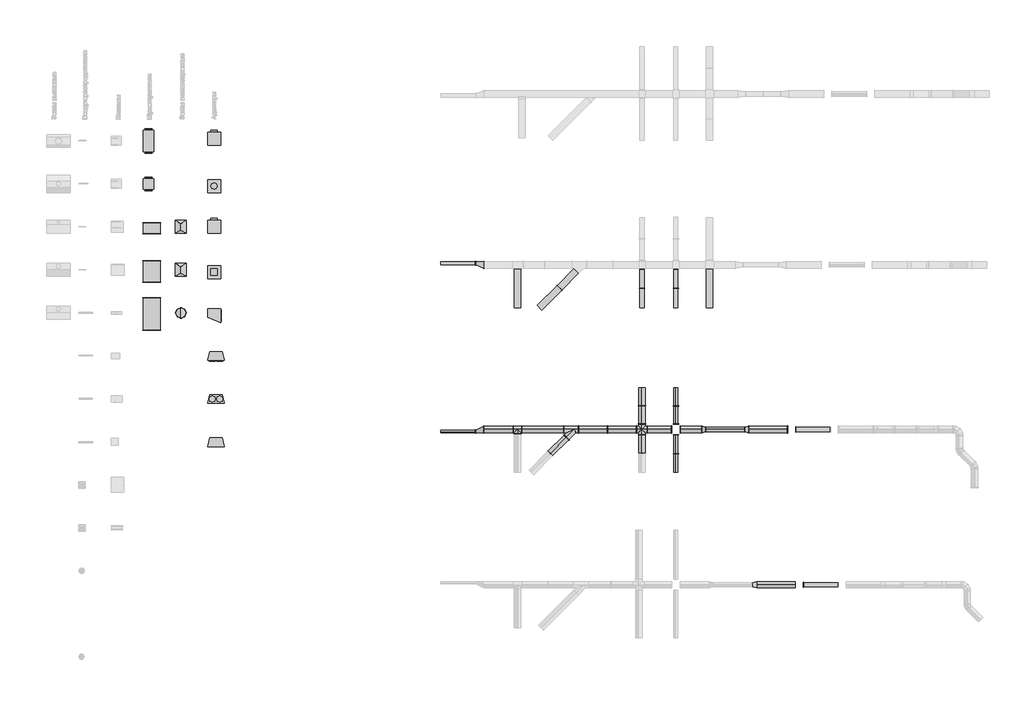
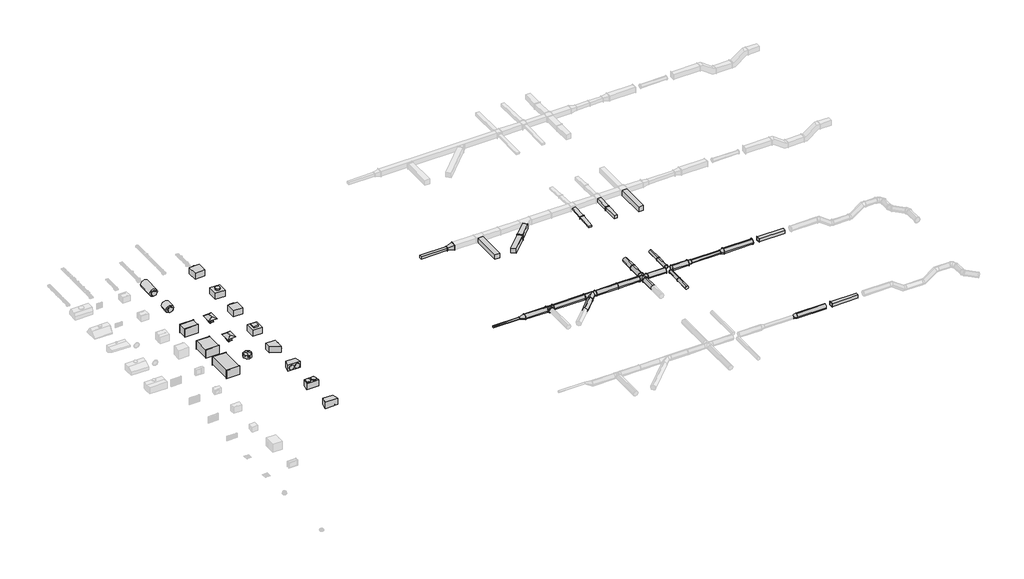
# One storey, part 3 of 8: 50 duct fittings, 29 duct segments, 5 dampers, 3 air terminals.
"""IFC4 building model written with IfcOpenShell, lengths in millimetres."""

from ifc_helpers import new_model, si_unit, point, frame, frame_2d, origin, place, context, project, spatial, polyline, circle_curve, trimmed, segment, composite_curve, outline, extrude, transform, mapped, element, save
from components import air_terminal_fc5799da, air_terminal_59899d2f, damper_f27f8fda, damper_9d352e0b, damper_7de5ede2, damper_b7a45a8b, damper_de34a188, duct_fitting_7b51e7bf, duct_fitting_5f2c6051, duct_fitting_603af2c4, duct_fitting_812cb25e, duct_fitting_a832e96c, duct_fitting_3d329366, duct_fitting_25271141, duct_fitting_49a873c3, duct_fitting_0a7cc2d9, duct_fitting_c498028a, duct_fitting_f7d28258, duct_fitting_ef46aa1c, duct_fitting_3f762420, duct_fitting_c73acc6d, duct_fitting_a26a523e, duct_fitting_8ec2bed2, duct_fitting_57fa9806, duct_fitting_327ef4ee, duct_fitting_1ddd712a, duct_fitting_735e9664, duct_fitting_d655b9da, duct_fitting_24f2fb5e, duct_fitting_0375d318, duct_fitting_0a8e2603, duct_fitting_de9f43f0, duct_fitting_114b5d4b, duct_fitting_bf4066f4

model = new_model("IFC4")

# Units and contexts
model_context = context("Model", 3, world=origin())
ifc_project = project(units=[si_unit("LENGTHUNIT", "METRE", prefix="MILLI")], contexts=[model_context])

# Site, building, storey
site = spatial("IfcSite", under=ifc_project)
building = spatial("IfcBuilding", under=site)
storey = spatial("IfcBuildingStorey", under=building, Name="Уровень 1", Elevation=0.0)

# Air terminals
placement = place(None, origin())
air_terminal_shape = air_terminal_fc5799da(model_context)
element("IfcAirTerminal", 1, ObjectType="BL_Дефлектор : BL_Дефлектор", at=placement, inside=storey, context=model_context, shape_type="MappedRepresentation", body=[
    mapped(air_terminal_shape, transform((-62129.1651759, 22332.2225324, 0.0), x_axis=(0.0, -1.0000000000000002, 0.0), y_axis=(1.0000000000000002, 0.0, 0.0), z_axis=(0.0, 0.0, 1.0))),
])
air_terminal_2_shape = air_terminal_59899d2f(model_context)
element("IfcAirTerminal", 2, ObjectType="BL_ЗонтПрямоугольный_Выброс : BL_ЗонтПрямоугольный_Выброс", at=placement, inside=storey, context=model_context, shape_type="MappedRepresentation", body=[
    mapped(air_terminal_2_shape, transform((-62128.1651759, 26332.2225324, 0.0), x_axis=(0.0, -1.0000000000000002, 0.0), y_axis=(1.0000000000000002, 0.0, 0.0), z_axis=(0.0, 0.0, 1.0))),
])
element("IfcAirTerminal", 3, ObjectType="BL_ЗонтПрямоугольный_Воздухозабор : BL_ЗонтПрямоугольный_Воздухозабор", at=placement, inside=storey, context=model_context, shape_type="MappedRepresentation", body=[
    mapped(air_terminal_2_shape, transform((-62128.1651759, 24332.2225324, 0.0), x_axis=(0.0, -1.0000000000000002, 0.0), y_axis=(1.0000000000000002, 0.0, 0.0), z_axis=(0.0, 0.0, 1.0))),
])

# Dampers
damper_shape = damper_f27f8fda(model_context)
element("IfcDamper", 4, ObjectType="Шумоглушитель_Круглый_ГТК : ГТК 1 (L=980)", at=placement, inside=storey, context=model_context, shape_type="MappedRepresentation", body=[
    mapped(damper_shape, transform((-63628.1651759, 30332.2225324, 250.0), x_axis=(0.0, -1.0000000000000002, 0.0), y_axis=(1.0000000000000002, 0.0, 0.0), z_axis=(0.0, 0.0, 1.0))),
])
damper_2_shape = damper_9d352e0b(model_context)
element("IfcDamper", 5, ObjectType="Шумоглушитель_Круглый_ГТК : ГТК 2 (L=480)", at=placement, inside=storey, context=model_context, shape_type="MappedRepresentation", body=[
    mapped(damper_2_shape, transform((-63628.1651759, 28332.2225324, 250.0), x_axis=(0.0, -1.0000000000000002, 0.0), y_axis=(1.0000000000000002, 0.0, 0.0), z_axis=(0.0, 0.0, 1.0))),
])
damper_3_shape = damper_7de5ede2(model_context)
element("IfcDamper", 6, ObjectType="Шумоглушитель_Прямоугольный_ГП : ГП (L=1000)", at=placement, inside=storey, context=model_context, shape_type="MappedRepresentation", body=[
    mapped(damper_3_shape, transform((-63478.1651759, 24263.0798558, 0.0), x_axis=(0.0, -1.0000000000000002, 0.0), y_axis=(1.0000000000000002, 0.0, 0.0), z_axis=(0.0, 0.0, 1.0))),
])
damper_4_shape = damper_b7a45a8b(model_context)
element("IfcDamper", 7, ObjectType="Шумоглушитель_Прямоугольный_ГП : ГП (L=1500)", at=placement, inside=storey, context=model_context, shape_type="MappedRepresentation", body=[
    mapped(damper_4_shape, transform((-63478.1651759, 22282.7114501, 0.0), x_axis=(0.0, -1.0000000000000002, 0.0), y_axis=(1.0000000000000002, 0.0, 0.0), z_axis=(0.0, 0.0, 1.0))),
])
damper_5_shape = damper_de34a188(model_context)
element("IfcDamper", 8, ObjectType="Шумоглушитель_Прямоугольный_ГП : ГП (L=500)", at=placement, inside=storey, context=model_context, shape_type="MappedRepresentation", body=[
    mapped(damper_5_shape, transform((-63478.1651759, 26272.3939084, 0.0), x_axis=(0.0, -1.0000000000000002, 0.0), y_axis=(1.0000000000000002, 0.0, 0.0), z_axis=(0.0, 0.0, 1.0))),
])

# Duct fittings
duct_fitting_shape = duct_fitting_7b51e7bf(model_context)
element("IfcDuctFitting", 9, ObjectType="BL_Адаптер-НТ_БоковоеПрисоединение : BL_Адаптер-НТ_БоковоеПрисоединение", at=placement, inside=storey, context=model_context, shape_type="MappedRepresentation", body=[
    mapped(duct_fitting_shape, transform((-60578.1651759, 22532.2225324, 200.0), x_axis=(0.0, -1.0000000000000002, 0.0), y_axis=(1.0000000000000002, 0.0, 0.0), z_axis=(0.0, 0.0, 1.0))),
])
duct_fitting_2_shape = duct_fitting_5f2c6051(model_context)
element("IfcDuctFitting", 10, ObjectType="BL_Адаптер-СТ_ПР : BL_Адаптер-СТ_ПР", at=placement, inside=storey, context=model_context, shape_type="MappedRepresentation", body=[
    mapped(duct_fitting_2_shape, transform((-60578.1651759, 24532.2225324, 200.0), x_axis=(0.0, -1.0000000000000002, 0.0), y_axis=(1.0000000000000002, 0.0, 0.0), z_axis=(0.0, 0.0, 1.0))),
])
duct_fitting_3_shape = duct_fitting_603af2c4(model_context)
element("IfcDuctFitting", 11, ObjectType="BL_Адаптер-СТ_ПР : BL_Адаптер-СТ_ПР", at=placement, inside=storey, context=model_context, shape_type="MappedRepresentation", body=[
    mapped(duct_fitting_3_shape, transform((-60578.1651759, 26032.2225324, 200.0), x_axis=(0.0, 1.0000000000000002, 0.0), y_axis=(-1.0000000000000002, 0.0, 0.0), z_axis=(0.0, 0.0, 1.0))),
])
duct_fitting_4_shape = duct_fitting_812cb25e(model_context)
element("IfcDuctFitting", 12, ObjectType="BL_Адаптер-СТ_КР : BL_Адаптер-СТ_КР", at=placement, inside=storey, context=model_context, shape_type="MappedRepresentation", body=[
    mapped(duct_fitting_4_shape, transform((-60578.1651759, 30132.2225324, 200.0), x_axis=(0.0, 1.0000000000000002, 0.0), y_axis=(-1.0000000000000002, 0.0, 0.0), z_axis=(0.0, 0.0, 1.0))),
])
duct_fitting_5_shape = duct_fitting_a832e96c(model_context)
element("IfcDuctFitting", 13, ObjectType="BL_Адаптер-СТ_КР : BL_Адаптер-СТ_КР", at=placement, inside=storey, context=model_context, shape_type="MappedRepresentation", body=[
    mapped(duct_fitting_5_shape, transform((-60578.1651759, 28532.2225324, 200.0), x_axis=(0.0, -1.0000000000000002, 0.0), y_axis=(1.0000000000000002, 0.0, 0.0), z_axis=(0.0, 0.0, 1.0))),
])
duct_fitting_6_shape = duct_fitting_3d329366(model_context)
element("IfcDuctFitting", 14, ObjectType="BL_ПереходникВоздуховодов_Прямоугольный : BL_ПереходникВоздуховодов_Прямоугольный", at=placement, inside=storey, context=model_context, shape_type="MappedRepresentation", body=[
    mapped(duct_fitting_6_shape, transform((-48040.6087126, 24570.0855378, 1050.0), x_axis=(-1.0, 0.0, 0.0), y_axis=(0.0, -1.0, 0.0), z_axis=(0.0, 0.0, 1.0))),
])
duct_fitting_7_shape = duct_fitting_25271141(model_context)
element("IfcDuctFitting", 15, ObjectType="BL_ФланецВоздуховдов-Двойной_Прямоугольный : BL_ФланецВоздуховдов-Двойной_Прямоугольный", at=placement, inside=storey, context=model_context, shape_type="MappedRepresentation", body=[
    mapped(duct_fitting_7_shape, transform((-44546.051706, 23530.6692607, 1050.0), x_axis=(0.7071067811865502, 0.7071067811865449, 0.0), y_axis=(-0.7071067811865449, 0.7071067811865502, 0.0), z_axis=(0.0, 0.0, 1.0))),
])
duct_fitting_8_shape = duct_fitting_49a873c3(model_context)
element("IfcDuctFitting", 16, ObjectType="BL_ФланецВоздуховдов-Двойной_Прямоугольный : BL_ФланецВоздуховдов-Двойной_Прямоугольный", at=placement, inside=storey, context=model_context, shape_type="MappedRepresentation", body=[
    mapped(duct_fitting_8_shape, transform((-39139.7447871, 23475.3002828, 1075.144854), x_axis=(0.0, 0.9996144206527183, 0.027767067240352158), y_axis=(-1.0, 0.0, 0.0), z_axis=(0.0, -0.027767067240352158, 0.9996144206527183))),
])
duct_fitting_9_shape = duct_fitting_0a7cc2d9(model_context)
element("IfcDuctFitting", 17, ObjectType="BL_ФланецВоздуховдов-Двойной_Прямоугольный : BL_ФланецВоздуховдов-Двойной_Прямоугольный", at=placement, inside=storey, context=model_context, shape_type="MappedRepresentation", body=[
    mapped(duct_fitting_9_shape, transform((-40719.7447871, 23477.5420295, 1030.4142495), x_axis=(0.0, 0.9984603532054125, 0.05547001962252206), y_axis=(-1.0, 0.0, 0.0), z_axis=(0.0, -0.05547001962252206, 0.9984603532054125))),
])
duct_fitting_10_shape = duct_fitting_c498028a(model_context)
element("IfcDuctFitting", 18, ObjectType="BL_ТройникВоздуховодов_Круглый-90 : Фланцевое соединение", at=placement, inside=storey, context=model_context, shape_type="MappedRepresentation", body=[
    mapped(duct_fitting_10_shape, transform((-46460.2026389, 16911.2474283, 1050.0), x_axis=(1.0, 0.0, 0.0), y_axis=(0.0, 1.0, 0.0), z_axis=(0.0, 0.0, 1.0))),
])
duct_fitting_11_shape = duct_fitting_f7d28258(model_context)
element("IfcDuctFitting", 19, ObjectType="BL_ТройникВоздуховодов_Круглый-45 : Фланцевое соединение", at=placement, inside=storey, context=model_context, shape_type="MappedRepresentation", body=[
    mapped(duct_fitting_11_shape, transform((-43967.3243546, 16911.2474283, 1050.0), x_axis=(-1.0, 0.0, 0.0), y_axis=(0.0, -1.0, 0.0), z_axis=(0.0, 0.0, 1.0))),
])
duct_fitting_12_shape = duct_fitting_ef46aa1c(model_context)
element("IfcDuctFitting", 20, ObjectType="BL_ФланецВоздуховдов-Двойной_Круглый : BL_ФланецВоздуховдов-Двойной_Круглый", at=placement, inside=storey, context=model_context, shape_type="MappedRepresentation", body=[
    mapped(duct_fitting_12_shape, transform((-42271.4512474, 16865.5732053, 1050.0), x_axis=(-1.0, 0.0, 0.0), y_axis=(0.0, -1.0, 0.0), z_axis=(0.0, 0.0, 1.0))),
])
element("IfcDuctFitting", 21, ObjectType="BL_ФланецВоздуховдов-Двойной_Круглый : BL_ФланецВоздуховдов-Двойной_Круглый", at=placement, inside=storey, context=model_context, shape_type="MappedRepresentation", body=[
    mapped(duct_fitting_12_shape, transform((-40719.7447871, 18002.4373404, 1050.0), x_axis=(0.0, 1.0, 0.0), y_axis=(-1.0, 0.0, 0.0), z_axis=(0.0, 0.0, 1.0))),
])
duct_fitting_13_shape = duct_fitting_3f762420(model_context)
element("IfcDuctFitting", 22, ObjectType="BL_ФланецВоздуховдов-Двойной_Круглый : BL_ФланецВоздуховдов-Двойной_Круглый", at=placement, inside=storey, context=model_context, shape_type="MappedRepresentation", body=[
    mapped(duct_fitting_13_shape, transform((-39139.7447871, 18001.4373404, 1050.0), x_axis=(0.0, 1.0, 0.0), y_axis=(-1.0, 0.0, 0.0), z_axis=(0.0, 0.0, 1.0))),
])
element("IfcDuctFitting", 23, ObjectType="BL_ФланецВоздуховдов-Двойной_Круглый : BL_ФланецВоздуховдов-Двойной_Круглый", at=placement, inside=storey, context=model_context, shape_type="MappedRepresentation", body=[
    mapped(duct_fitting_13_shape, transform((-39139.7447871, 15785.2474283, 1050.0), x_axis=(0.0, 1.0, 0.0), y_axis=(-1.0, 0.0, 0.0), z_axis=(0.0, 0.0, 1.0))),
])
duct_fitting_14_shape = duct_fitting_c73acc6d(model_context)
element("IfcDuctFitting", 24, ObjectType="BL_КрестовинаВоздуховодов_Круглая : Фланцевое соединение", at=placement, inside=storey, context=model_context, shape_type="MappedRepresentation", body=[
    mapped(duct_fitting_14_shape, transform((-40674.0705642, 16911.2474283, 1050.0), x_axis=(0.0, 1.0, 0.0), y_axis=(-1.0, 0.0, 0.0), z_axis=(0.0, 0.0, 1.0))),
])
duct_fitting_15_shape = duct_fitting_a26a523e(model_context)
element("IfcDuctFitting", 25, ObjectType="BL_ФланецВоздуховдов-Двойной_Круглый_БезКоннекторов : BL_ФланецВоздуховдов-Двойной_Круглый_БезКоннекторов", at=placement, inside=storey, context=model_context, shape_type="MappedRepresentation", body=[
    mapped(duct_fitting_15_shape, transform((-39139.7447871, 16661.2474283, 1050.0), x_axis=(0.0, 1.0, 0.0), y_axis=(-1.0, 0.0, 0.0), z_axis=(0.0, 0.0, 1.0))),
])
element("IfcDuctFitting", 26, ObjectType="BL_ФланецВоздуховдов-Двойной_Круглый_БезКоннекторов : BL_ФланецВоздуховдов-Двойной_Круглый_БезКоннекторов", at=placement, inside=storey, context=model_context, shape_type="MappedRepresentation", body=[
    mapped(duct_fitting_15_shape, transform((-39139.7447871, 17161.2474283, 1050.0), x_axis=(0.0, 1.0, 0.0), y_axis=(-1.0, 0.0, 0.0), z_axis=(0.0, 0.0, 1.0))),
])
duct_fitting_16_shape = duct_fitting_8ec2bed2(model_context)
element("IfcDuctFitting", 27, ObjectType="BL_ФланецВоздуховдов-Двойной_Круглый_БезКоннекторов : BL_ФланецВоздуховдов-Двойной_Круглый_БезКоннекторов", at=placement, inside=storey, context=model_context, shape_type="MappedRepresentation", body=[
    mapped(duct_fitting_16_shape, transform((-46260.2026389, 16956.9216512, 1050.0), x_axis=(1.0, 0.0, 0.0), y_axis=(0.0, 1.0, 0.0), z_axis=(0.0, 0.0, 1.0))),
])
element("IfcDuctFitting", 28, ObjectType="BL_ФланецВоздуховдов-Двойной_Круглый_БезКоннекторов : BL_ФланецВоздуховдов-Двойной_Круглый_БезКоннекторов", at=placement, inside=storey, context=model_context, shape_type="MappedRepresentation", body=[
    mapped(duct_fitting_16_shape, transform((-46660.2026389, 16956.9216512, 1050.0), x_axis=(1.0, 0.0, 0.0), y_axis=(0.0, 1.0, 0.0), z_axis=(0.0, 0.0, 1.0))),
])
element("IfcDuctFitting", 29, ObjectType="BL_ФланецВоздуховдов-Двойной_Круглый_БезКоннекторов : BL_ФланецВоздуховдов-Двойной_Круглый_БезКоннекторов", at=placement, inside=storey, context=model_context, shape_type="MappedRepresentation", body=[
    mapped(duct_fitting_16_shape, transform((-46505.8768619, 16711.2474283, 1050.0), x_axis=(0.0, 1.0, 0.0), y_axis=(-1.0, 0.0, 0.0), z_axis=(0.0, 0.0, 1.0))),
])
element("IfcDuctFitting", 30, ObjectType="BL_ФланецВоздуховдов-Двойной_Круглый_БезКоннекторов : BL_ФланецВоздуховдов-Двойной_Круглый_БезКоннекторов", at=placement, inside=storey, context=model_context, shape_type="MappedRepresentation", body=[
    mapped(duct_fitting_16_shape, transform((-33894.0705642, 16865.5732053, 1050.0), x_axis=(-1.0, 0.0, 0.0), y_axis=(0.0, -1.0, 0.0), z_axis=(0.0, 0.0, 1.0))),
])
element("IfcDuctFitting", 31, ObjectType="BL_ФланецВоздуховдов-Двойной_Круглый_БезКоннекторов : BL_ФланецВоздуховдов-Двойной_Круглый_БезКоннекторов", at=placement, inside=storey, context=model_context, shape_type="MappedRepresentation", body=[
    mapped(duct_fitting_16_shape, transform((-40719.7447871, 17161.2474283, 1050.0), x_axis=(0.0, 1.0, 0.0), y_axis=(-1.0, 0.0, 0.0), z_axis=(0.0, 0.0, 1.0))),
])
element("IfcDuctFitting", 32, ObjectType="BL_ФланецВоздуховдов-Двойной_Круглый_БезКоннекторов : BL_ФланецВоздуховдов-Двойной_Круглый_БезКоннекторов", at=placement, inside=storey, context=model_context, shape_type="MappedRepresentation", body=[
    mapped(duct_fitting_16_shape, transform((-40719.7447871, 16661.2474283, 1050.0), x_axis=(0.0, 1.0, 0.0), y_axis=(-1.0, 0.0, 0.0), z_axis=(0.0, 0.0, 1.0))),
])
element("IfcDuctFitting", 33, ObjectType="BL_ФланецВоздуховдов-Двойной_Круглый_БезКоннекторов : BL_ФланецВоздуховдов-Двойной_Круглый_БезКоннекторов", at=placement, inside=storey, context=model_context, shape_type="MappedRepresentation", body=[
    mapped(duct_fitting_16_shape, transform((-40424.0705642, 16865.5732053, 1050.0), x_axis=(-1.0, 0.0, 0.0), y_axis=(0.0, -1.0, 0.0), z_axis=(0.0, 0.0, 1.0))),
])
element("IfcDuctFitting", 34, ObjectType="BL_ФланецВоздуховдов-Двойной_Круглый_БезКоннекторов : BL_ФланецВоздуховдов-Двойной_Круглый_БезКоннекторов", at=placement, inside=storey, context=model_context, shape_type="MappedRepresentation", body=[
    mapped(duct_fitting_16_shape, transform((-40924.0705642, 16865.5732053, 1050.0), x_axis=(-1.0, 0.0, 0.0), y_axis=(0.0, -1.0, 0.0), z_axis=(0.0, 0.0, 1.0))),
])
element("IfcDuctFitting", 35, ObjectType="BL_ФланецВоздуховдов-Двойной_Круглый_БезКоннекторов : BL_ФланецВоздуховдов-Двойной_Круглый_БезКоннекторов", at=placement, inside=storey, context=model_context, shape_type="MappedRepresentation", body=[
    mapped(duct_fitting_16_shape, transform((-38894.0705642, 16956.9216512, 1050.0), x_axis=(1.0, 0.0, 0.0), y_axis=(0.0, 1.0, 0.0), z_axis=(0.0, 0.0, 1.0))),
])
element("IfcDuctFitting", 36, ObjectType="BL_ФланецВоздуховдов-Двойной_Круглый_БезКоннекторов : BL_ФланецВоздуховдов-Двойной_Круглый_БезКоннекторов", at=placement, inside=storey, context=model_context, shape_type="MappedRepresentation", body=[
    mapped(duct_fitting_16_shape, transform((-39294.0705642, 16956.9216512, 1050.0), x_axis=(1.0, 0.0, 0.0), y_axis=(0.0, 1.0, 0.0), z_axis=(0.0, 0.0, 1.0))),
])
duct_fitting_17_shape = duct_fitting_57fa9806(model_context)
element("IfcDuctFitting", 37, ObjectType="BL_ФланецВоздуховдов-Двойной_Круглый_БезКоннекторов : BL_ФланецВоздуховдов-Двойной_Круглый_БезКоннекторов", at=placement, inside=storey, context=model_context, shape_type="MappedRepresentation", body=[
    mapped(duct_fitting_17_shape, transform((-44315.8167787, 16956.9216512, 1050.0), x_axis=(-1.0, 0.0, 0.0), y_axis=(0.0, -1.0, 0.0), z_axis=(0.0, 0.0, 1.0))),
])
element("IfcDuctFitting", 38, ObjectType="BL_ФланецВоздуховдов-Двойной_Круглый_БезКоннекторов : BL_ФланецВоздуховдов-Двойной_Круглый_БезКоннекторов", at=placement, inside=storey, context=model_context, shape_type="MappedRepresentation", body=[
    mapped(duct_fitting_17_shape, transform((-43618.8319306, 16956.9216512, 1050.0), x_axis=(-1.0, 0.0, 0.0), y_axis=(0.0, -1.0, 0.0), z_axis=(0.0, 0.0, 1.0))),
])
element("IfcDuctFitting", 39, ObjectType="BL_ФланецВоздуховдов-Двойной_Круглый_БезКоннекторов : BL_ФланецВоздуховдов-Двойной_Круглый_БезКоннекторов", at=placement, inside=storey, context=model_context, shape_type="MappedRepresentation", body=[
    mapped(duct_fitting_17_shape, transform((-44220.3315855, 16572.8333029, 1050.0), x_axis=(-0.7071067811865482, -0.7071067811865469, 0.0), y_axis=(0.7071067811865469, -0.7071067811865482, 0.0), z_axis=(0.0, 0.0, 1.0))),
])
duct_fitting_18_shape = duct_fitting_327ef4ee(model_context)
element("IfcDuctFitting", 40, ObjectType="BL_ПереходникВоздуховодов_Круглый : Фланцевое соединение", at=placement, inside=storey, context=model_context, shape_type="MappedRepresentation", body=[
    mapped(duct_fitting_18_shape, transform((-37894.0705642, 16911.2474283, 1050.0), x_axis=(1.0, 0.0, 0.0), y_axis=(0.0, 1.0, 0.0), z_axis=(0.0, 0.0, 1.0))),
])
duct_fitting_19_shape = duct_fitting_1ddd712a(model_context)
element("IfcDuctFitting", 41, ObjectType="BL_ПереходникВоздуховодов_Круглый : Фланцевое соединение", at=placement, inside=storey, context=model_context, shape_type="MappedRepresentation", body=[
    mapped(duct_fitting_19_shape, transform((-35894.0705642, 16911.2474283, 1050.0), x_axis=(1.0, 0.0, 0.0), y_axis=(0.0, 1.0, 0.0), z_axis=(0.0, 0.0, 1.0))),
])
element("IfcDuctFitting", 42, ObjectType="BL_ПереходникВоздуховодов_Круглый : Ниппельное соединение", at=placement, inside=storey, context=model_context, shape_type="MappedRepresentation", body=[
    mapped(duct_fitting_19_shape, transform((-35531.6491772, 9680.2957144, 1050.0), x_axis=(1.0, 0.0, 0.0), y_axis=(0.0, 1.0, 0.0), z_axis=(0.0, 0.0, 1.0))),
])
duct_fitting_20_shape = duct_fitting_735e9664(model_context)
element("IfcDuctFitting", 43, ObjectType="BL_ПереходникВоздуховодов_Круглый : Фланцевое соединение", at=placement, inside=storey, context=model_context, shape_type="MappedRepresentation", body=[
    mapped(duct_fitting_20_shape, transform((-48040.6087126, 16911.2474283, 1050.0), x_axis=(-1.0, 0.0, 0.0), y_axis=(0.0, -1.0, 0.0), z_axis=(0.0, 0.0, 1.0))),
])
element("IfcDuctFitting", 44, ObjectType="BL_ФланецВоздуховдов-Двойной_Круглый_БезКоннекторов : BL_ФланецВоздуховдов-Двойной_Круглый_БезКоннекторов", at=placement, inside=storey, context=model_context, shape_type="MappedRepresentation", body=[
    mapped(duct_fitting_13_shape, transform((-37694.0705642, 16956.9216512, 1050.0), x_axis=(1.0, 0.0, 0.0), y_axis=(0.0, 1.0, 0.0), z_axis=(0.0, 0.0, 1.0))),
])
element("IfcDuctFitting", 45, ObjectType="BL_ФланецВоздуховдов-Двойной_Круглый_БезКоннекторов : BL_ФланецВоздуховдов-Двойной_Круглый_БезКоннекторов", at=placement, inside=storey, context=model_context, shape_type="MappedRepresentation", body=[
    mapped(duct_fitting_13_shape, transform((-35894.0705642, 16956.9216512, 1050.0), x_axis=(1.0, 0.0, 0.0), y_axis=(0.0, 1.0, 0.0), z_axis=(0.0, 0.0, 1.0))),
])
element("IfcDuctFitting", 46, ObjectType="BL_ФланецВоздуховдов-Двойной_Круглый_БезКоннекторов : BL_ФланецВоздуховдов-Двойной_Круглый_БезКоннекторов", at=placement, inside=storey, context=model_context, shape_type="MappedRepresentation", body=[
    mapped(duct_fitting_12_shape, transform((-37894.0705642, 16956.9216512, 1050.0), x_axis=(1.0, 0.0, 0.0), y_axis=(0.0, 1.0, 0.0), z_axis=(0.0, 0.0, 1.0))),
])
element("IfcDuctFitting", 47, ObjectType="BL_ФланецВоздуховдов-Двойной_Круглый_БезКоннекторов : BL_ФланецВоздуховдов-Двойной_Круглый_БезКоннекторов", at=placement, inside=storey, context=model_context, shape_type="MappedRepresentation", body=[
    mapped(duct_fitting_12_shape, transform((-35694.0705642, 16956.9216512, 1050.0), x_axis=(1.0, 0.0, 0.0), y_axis=(0.0, 1.0, 0.0), z_axis=(0.0, 0.0, 1.0))),
])
element("IfcDuctFitting", 48, ObjectType="BL_ФланецВоздуховдов-Двойной_Круглый_БезКоннекторов : BL_ФланецВоздуховдов-Двойной_Круглый_БезКоннекторов", at=placement, inside=storey, context=model_context, shape_type="MappedRepresentation", body=[
    mapped(duct_fitting_12_shape, transform((-48040.6087126, 16865.5732053, 1050.0), x_axis=(-1.0, 0.0, 0.0), y_axis=(0.0, -1.0, 0.0), z_axis=(0.0, 0.0, 1.0))),
])
duct_fitting_21_shape = duct_fitting_d655b9da(model_context)
element("IfcDuctFitting", 49, ObjectType="BL_ФланецВоздуховдов-Двойной_Круглый_БезКоннекторов : BL_ФланецВоздуховдов-Двойной_Круглый_БезКоннекторов", at=placement, inside=storey, context=model_context, shape_type="MappedRepresentation", body=[
    mapped(duct_fitting_21_shape, transform((-48415.6087126, 16765.5732053, 1150.0), x_axis=(-1.0, 0.0, 0.0), y_axis=(0.0, -1.0, 0.0), z_axis=(0.0, 0.0, 1.0))),
])
element("IfcDuctFitting", 50, ObjectType="BL_ФланецВоздуховдов-Двойной_Прямоугольный_БезКоннекторов : BL_ФланецВоздуховдов-Двойной_Прямоугольный_БезКоннекторов", at=placement, inside=storey, context=model_context, shape_type="MappedRepresentation", body=[
    mapped(duct_fitting_7_shape, transform((-48040.6087126, 24524.4113148, 1050.0), x_axis=(-1.0, 0.0, 0.0), y_axis=(0.0, -1.0, 0.0), z_axis=(0.0, 0.0, 1.0))),
])
element("IfcDuctFitting", 51, ObjectType="BL_ФланецВоздуховдов-Двойной_Прямоугольный_БезКоннекторов : BL_ФланецВоздуховдов-Двойной_Прямоугольный_БезКоннекторов", at=placement, inside=storey, context=model_context, shape_type="MappedRepresentation", body=[
    mapped(duct_fitting_8_shape, transform((-33519.0705642, 16865.5732053, 1050.0), x_axis=(-1.0, 0.0, 0.0), y_axis=(0.0, -1.0, 0.0), z_axis=(0.0, 0.0, 1.0))),
])
duct_fitting_22_shape = duct_fitting_24f2fb5e(model_context)
element("IfcDuctFitting", 52, ObjectType="BL_ФланецВоздуховдов-Двойной_Прямоугольный_БезКоннекторов : BL_ФланецВоздуховдов-Двойной_Прямоугольный_БезКоннекторов", at=placement, inside=storey, context=model_context, shape_type="MappedRepresentation", body=[
    mapped(duct_fitting_22_shape, transform((-33156.6491772, 9634.6214914, 1050.0), x_axis=(-1.0, 0.0, 0.0), y_axis=(0.0, -1.0, 0.0), z_axis=(0.0, 0.0, 1.0))),
])
duct_fitting_23_shape = duct_fitting_0375d318(model_context)
element("IfcDuctFitting", 53, ObjectType="BL_ФланецВоздуховдов-Двойной_Прямоугольный_БезКоннекторов : BL_ФланецВоздуховдов-Двойной_Прямоугольный_БезКоннекторов", at=placement, inside=storey, context=model_context, shape_type="MappedRepresentation", body=[
    mapped(duct_fitting_23_shape, transform((-48415.6087126, 24599.4113148, 975.0), x_axis=(-1.0, 0.0, 0.0), y_axis=(0.0, -1.0, 0.0), z_axis=(0.0, 0.0, 1.0))),
])
duct_fitting_24_shape = duct_fitting_0a8e2603(model_context)
element("IfcDuctFitting", 54, ObjectType="BL_ФланецВоздуховдов-Двойной_Прямоугольный_БезКоннекторов : BL_ФланецВоздуховдов-Двойной_Прямоугольный_БезКоннекторов", at=placement, inside=storey, context=model_context, shape_type="MappedRepresentation", body=[
    mapped(duct_fitting_24_shape, transform((-62082.4909529, 26332.2225324, 0.0), x_axis=(0.0, 0.0, 1.0), y_axis=(-1.0000000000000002, 0.0, 0.0), z_axis=(0.0, -1.0000000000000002, 0.0))),
])
element("IfcDuctFitting", 55, ObjectType="BL_ФланецВоздуховдов-Двойной_Прямоугольный_БезКоннекторов : BL_ФланецВоздуховдов-Двойной_Прямоугольный_БезКоннекторов", at=placement, inside=storey, context=model_context, shape_type="MappedRepresentation", body=[
    mapped(duct_fitting_24_shape, transform((-62082.4909529, 24332.2225324, 0.0), x_axis=(0.0, 0.0, 1.0), y_axis=(-1.0000000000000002, 0.0, 0.0), z_axis=(0.0, -1.0000000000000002, 0.0))),
])
duct_fitting_25_shape = duct_fitting_de9f43f0(model_context)
element("IfcDuctFitting", 56, ObjectType="BL_Адаптер-НТ_ВерхНижПрямПрисоединение : BL_Адаптер-НТ_ВерхНижПрямПрисоединение", at=placement, inside=storey, context=model_context, shape_type="MappedRepresentation", body=[
    mapped(duct_fitting_25_shape, transform((-60493.1651759, 20532.2225324, 200.0), x_axis=(0.0, -1.0000000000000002, 0.0), y_axis=(1.0000000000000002, 0.0, 0.0), z_axis=(0.0, 0.0, 1.0))),
])
duct_fitting_26_shape = duct_fitting_114b5d4b(model_context)
element("IfcDuctFitting", 57, ObjectType="BL_Адаптер-НТ_ВерхНижПрямПрисоединение : BL_Адаптер-НТ_ВерхНижПрямПрисоединение", at=placement, inside=storey, context=model_context, shape_type="MappedRepresentation", body=[
    mapped(duct_fitting_26_shape, transform((-60493.1651759, 18532.2225324, 200.0), x_axis=(0.0, -1.0000000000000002, 0.0), y_axis=(1.0000000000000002, 0.0, 0.0), z_axis=(0.0, 0.0, 1.0))),
])
duct_fitting_27_shape = duct_fitting_bf4066f4(model_context)
element("IfcDuctFitting", 58, ObjectType="BL_Адаптер-НТ_ВерхНижПрямПрисоединение : BL_Адаптер-НТ_ВерхНижПрямПрисоединение", at=placement, inside=storey, context=model_context, shape_type="MappedRepresentation", body=[
    mapped(duct_fitting_27_shape, transform((-60493.1651759, 16512.2225324, 200.0), x_axis=(0.0, -1.0000000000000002, 0.0), y_axis=(1.0000000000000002, 0.0, 0.0), z_axis=(0.0, 0.0, 1.0))),
])

# Duct segments
element("IfcDuctSegment", 59, ObjectType="BL_Воздуховод прямоугольного сечения_Тройники_Фланцевое соединение", at=placement, inside=storey, context=model_context, shape_type="SweptSolid", body=[
    extrude(outline(polyline([(-46610.2026389, 24370.0855378), (-46310.2026389, 24370.0855378), (-46310.2026389, 22570.0855378), (-46610.2026389, 22570.0855378), (-46610.2026389, 24370.0855378)])), frame((0.0, 0.0, 900.0), z_axis=(0.0, 0.0, 1.0), x_axis=(1.0, 0.0, 0.0)), (0.0, 0.0, 1.0), 300.0),
])
element("IfcDuctSegment", 60, ObjectType="BL_Воздуховод прямоугольного сечения_Тройники_Фланцевое соединение", at=placement, inside=storey, context=model_context, shape_type="SweptSolid", body=[
    extrude(outline(polyline([(-44620.5282772, 23603.7316183), (-44408.3962429, 23391.599584), (-45335.9763063, 22464.0195206), (-45548.1083406, 22676.1515549), (-44620.5282772, 23603.7316183)])), frame((0.0, 0.0, 900.0), z_axis=(0.0, 0.0, 1.0), x_axis=(1.0, 0.0, 0.0)), (0.0, 0.0, 1.0), 300.0),
])
element("IfcDuctSegment", 61, ObjectType="BL_Воздуховод прямоугольного сечения_Тройники_Фланцевое соединение", at=placement, inside=storey, context=model_context, shape_type="SweptSolid", body=[
    extrude(outline(polyline([(-37681.6491772, 24370.0855378), (-37381.6491772, 24370.0855378), (-37381.6491772, 22570.0855378), (-37681.6491772, 22570.0855378), (-37681.6491772, 24370.0855378)])), frame((0.0, 0.0, 900.0), z_axis=(0.0, 0.0, 1.0), x_axis=(1.0, 0.0, 0.0)), (0.0, 0.0, 1.0), 300.0),
])
element("IfcDuctSegment", 62, ObjectType="BL_Воздуховод прямоугольного сечения_Тройники_Фланцевое соединение", at=placement, inside=storey, context=model_context, shape_type="SweptSolid", body=[
    extrude(outline(polyline([(0.0, -200.0), (0.0, 0.0), (904.5639118, 0.0), (904.5639118, -200.0), (0.0, -200.0)])), frame((-38994.0705642, 23477.0773751, 975.1556449), z_axis=(0.0, -0.027767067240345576, 0.9996144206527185), x_axis=(0.0, -0.9996144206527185, -0.027767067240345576)), (0.0, 0.0, 1.0), 200.0),
])
element("IfcDuctSegment", 63, ObjectType="BL_Воздуховод прямоугольного сечения_Тройники_Фланцевое соединение", at=placement, inside=storey, context=model_context, shape_type="SweptSolid", body=[
    extrude(outline(polyline([(0.0, -200.0), (0.0, 0.0), (903.9729073, 0.0), (903.9729073, -200.0), (0.0, -200.0)])), frame((-40574.0705642, 23479.3170701, 980.4357619), z_axis=(0.0, -0.055470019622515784, 0.9984603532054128), x_axis=(0.0, -0.9984603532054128, -0.055470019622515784)), (0.0, 0.0, 1.0), 100.0),
])
element("IfcDuctSegment", 64, ObjectType="BL_Воздуховод круглого сечения_Тройники_Фланцевое соединение", at=placement, inside=storey, context=model_context, shape_type="SweptSolid", body=[
    extrude(outline(composite_curve([segment(trimmed(circle_curve(frame_2d((16911.2474283, 1050.0)), 150.0), [point((16761.2474283, 1050.0))], [point((16911.2474283, 1200.0))], False, "CARTESIAN"), True, "CONTINUOUS"), segment(trimmed(circle_curve(frame_2d((16911.2474283, 1050.0)), 150.0), [point((16911.2474283, 1200.0))], [point((17061.2474283, 1050.0))], False, "CARTESIAN"), True, "CONTINUOUS"), segment(trimmed(circle_curve(frame_2d((16911.2474283, 1050.0)), 150.0), [point((17061.2474283, 1050.0))], [point((16911.2474283, 900.0))], False, "CARTESIAN"), True, "CONTINUOUS"), segment(trimmed(circle_curve(frame_2d((16911.2474283, 1050.0)), 150.0), [point((16911.2474283, 900.0))], [point((16761.2474283, 1050.0))], False, "CARTESIAN"), True, "CONTINUOUS")], self_intersect=False)), frame((-48040.6087126, 0.0, 0.0), z_axis=(1.0, 0.0, 0.0), x_axis=(0.0, 1.0, 0.0)), (0.0, 0.0, 1.0), 1380.4060737),
])
element("IfcDuctSegment", 65, ObjectType="BL_Воздуховод круглого сечения_Тройники_Фланцевое соединение", at=placement, inside=storey, context=model_context, shape_type="SweptSolid", body=[
    extrude(outline(composite_curve([segment(trimmed(circle_curve(frame_2d((16911.2474283, 1050.0)), 150.0), [point((16761.2474283, 1050.0))], [point((16911.2474283, 1200.0))], False, "CARTESIAN"), True, "CONTINUOUS"), segment(trimmed(circle_curve(frame_2d((16911.2474283, 1050.0)), 150.0), [point((16911.2474283, 1200.0))], [point((17061.2474283, 1050.0))], False, "CARTESIAN"), True, "CONTINUOUS"), segment(trimmed(circle_curve(frame_2d((16911.2474283, 1050.0)), 150.0), [point((17061.2474283, 1050.0))], [point((16911.2474283, 900.0))], False, "CARTESIAN"), True, "CONTINUOUS"), segment(trimmed(circle_curve(frame_2d((16911.2474283, 1050.0)), 150.0), [point((16911.2474283, 900.0))], [point((16761.2474283, 1050.0))], False, "CARTESIAN"), True, "CONTINUOUS")], self_intersect=False)), frame((-38894.0705642, 0.0, 0.0), z_axis=(1.0, 0.0, 0.0), x_axis=(0.0, 1.0, 0.0)), (0.0, 0.0, 1.0), 1000.0),
])
element("IfcDuctSegment", 66, ObjectType="BL_Воздуховод круглого сечения_Тройники_Фланцевое соединение", at=placement, inside=storey, context=model_context, shape_type="SweptSolid", body=[
    extrude(outline(composite_curve([segment(trimmed(circle_curve(frame_2d((16911.2474283, 1050.0)), 150.0), [point((16761.2474283, 1050.0))], [point((16911.2474283, 1200.0))], False, "CARTESIAN"), True, "CONTINUOUS"), segment(trimmed(circle_curve(frame_2d((16911.2474283, 1050.0)), 150.0), [point((16911.2474283, 1200.0))], [point((17061.2474283, 1050.0))], False, "CARTESIAN"), True, "CONTINUOUS"), segment(trimmed(circle_curve(frame_2d((16911.2474283, 1050.0)), 150.0), [point((17061.2474283, 1050.0))], [point((16911.2474283, 900.0))], False, "CARTESIAN"), True, "CONTINUOUS"), segment(trimmed(circle_curve(frame_2d((16911.2474283, 1050.0)), 150.0), [point((16911.2474283, 900.0))], [point((16761.2474283, 1050.0))], False, "CARTESIAN"), True, "CONTINUOUS")], self_intersect=False)), frame((-46260.2026389, 0.0, 0.0), z_axis=(1.0, 0.0, 0.0), x_axis=(0.0, 1.0, 0.0)), (0.0, 0.0, 1.0), 1944.3858603),
])
element("IfcDuctSegment", 67, ObjectType="BL_Воздуховод круглого сечения_Тройники_Фланцевое соединение", at=placement, inside=storey, context=model_context, shape_type="SweptSolid", body=[
    extrude(outline(composite_curve([segment(trimmed(circle_curve(frame_2d((1050.0, -40674.0705642)), 150.0), [point((1050.0, -40824.0705642))], [point((900.0, -40674.0705642))], False, "CARTESIAN"), True, "CONTINUOUS"), segment(trimmed(circle_curve(frame_2d((1050.0, -40674.0705642)), 150.0), [point((900.0, -40674.0705642))], [point((1050.0, -40524.0705642))], False, "CARTESIAN"), True, "CONTINUOUS"), segment(trimmed(circle_curve(frame_2d((1050.0, -40674.0705642)), 150.0), [point((1050.0, -40524.0705642))], [point((1200.0, -40674.0705642))], False, "CARTESIAN"), True, "CONTINUOUS"), segment(trimmed(circle_curve(frame_2d((1050.0, -40674.0705642)), 150.0), [point((1200.0, -40674.0705642))], [point((1050.0, -40824.0705642))], False, "CARTESIAN"), True, "CONTINUOUS")], self_intersect=False)), frame((0.0, 17161.2474283, 0.0), z_axis=(0.0, 1.0, 0.0), x_axis=(0.0, 0.0, 1.0)), (0.0, 0.0, 1.0), 840.1899121),
])
element("IfcDuctSegment", 68, ObjectType="BL_Воздуховод круглого сечения_Тройники_Фланцевое соединение", at=placement, inside=storey, context=model_context, shape_type="SweptSolid", body=[
    extrude(outline(composite_curve([segment(trimmed(circle_curve(frame_2d((16911.2474283, 1050.0)), 150.0), [point((16761.2474283, 1050.0))], [point((16911.2474283, 1200.0))], False, "CARTESIAN"), True, "CONTINUOUS"), segment(trimmed(circle_curve(frame_2d((16911.2474283, 1050.0)), 150.0), [point((16911.2474283, 1200.0))], [point((17061.2474283, 1050.0))], False, "CARTESIAN"), True, "CONTINUOUS"), segment(trimmed(circle_curve(frame_2d((16911.2474283, 1050.0)), 150.0), [point((17061.2474283, 1050.0))], [point((16911.2474283, 900.0))], False, "CARTESIAN"), True, "CONTINUOUS"), segment(trimmed(circle_curve(frame_2d((16911.2474283, 1050.0)), 150.0), [point((16911.2474283, 900.0))], [point((16761.2474283, 1050.0))], False, "CARTESIAN"), True, "CONTINUOUS")], self_intersect=False)), frame((-42270.4512474, 0.0, 0.0), z_axis=(1.0, 0.0, 0.0), x_axis=(0.0, 1.0, 0.0)), (0.0, 0.0, 1.0), 1346.3806832),
])
element("IfcDuctSegment", 69, ObjectType="BL_Воздуховод круглого сечения_Тройники_Фланцевое соединение", at=placement, inside=storey, context=model_context, shape_type="SweptSolid", body=[
    extrude(outline(composite_curve([segment(trimmed(circle_curve(frame_2d((1050.0, -39094.0705642)), 100.0), [point((1050.0, -39194.0705642))], [point((950.0, -39094.0705642))], False, "CARTESIAN"), True, "CONTINUOUS"), segment(trimmed(circle_curve(frame_2d((1050.0, -39094.0705642)), 100.0), [point((950.0, -39094.0705642))], [point((1050.0, -38994.0705642))], False, "CARTESIAN"), True, "CONTINUOUS"), segment(trimmed(circle_curve(frame_2d((1050.0, -39094.0705642)), 100.0), [point((1050.0, -38994.0705642))], [point((1150.0, -39094.0705642))], False, "CARTESIAN"), True, "CONTINUOUS"), segment(trimmed(circle_curve(frame_2d((1050.0, -39094.0705642)), 100.0), [point((1150.0, -39094.0705642))], [point((1050.0, -39194.0705642))], False, "CARTESIAN"), True, "CONTINUOUS")], self_intersect=False)), frame((0.0, 14911.2474283, 0.0), z_axis=(0.0, 1.0, 0.0), x_axis=(0.0, 0.0, 1.0)), (0.0, 0.0, 1.0), 873.0),
])
element("IfcDuctSegment", 70, ObjectType="BL_Воздуховод круглого сечения_Тройники_Фланцевое соединение", at=placement, inside=storey, context=model_context, shape_type="SweptSolid", body=[
    extrude(outline(composite_curve([segment(trimmed(circle_curve(frame_2d((1050.0, -39094.0705642)), 100.0), [point((1050.0, -39194.0705642))], [point((950.0, -39094.0705642))], False, "CARTESIAN"), True, "CONTINUOUS"), segment(trimmed(circle_curve(frame_2d((1050.0, -39094.0705642)), 100.0), [point((950.0, -39094.0705642))], [point((1050.0, -38994.0705642))], False, "CARTESIAN"), True, "CONTINUOUS"), segment(trimmed(circle_curve(frame_2d((1050.0, -39094.0705642)), 100.0), [point((1050.0, -38994.0705642))], [point((1150.0, -39094.0705642))], False, "CARTESIAN"), True, "CONTINUOUS"), segment(trimmed(circle_curve(frame_2d((1050.0, -39094.0705642)), 100.0), [point((1150.0, -39094.0705642))], [point((1050.0, -39194.0705642))], False, "CARTESIAN"), True, "CONTINUOUS")], self_intersect=False)), frame((0.0, 17161.2474283, 0.0), z_axis=(0.0, 1.0, 0.0), x_axis=(0.0, 0.0, 1.0)), (0.0, 0.0, 1.0), 839.1899121),
])
element("IfcDuctSegment", 71, ObjectType="BL_Воздуховод круглого сечения_Тройники_Фланцевое соединение", at=placement, inside=storey, context=model_context, shape_type="SweptSolid", body=[
    extrude(outline(composite_curve([segment(trimmed(circle_curve(frame_2d((16911.2474283, 1050.0)), 150.0), [point((16761.2474283, 1050.0))], [point((16911.2474283, 1200.0))], False, "CARTESIAN"), True, "CONTINUOUS"), segment(trimmed(circle_curve(frame_2d((16911.2474283, 1050.0)), 150.0), [point((16911.2474283, 1200.0))], [point((17061.2474283, 1050.0))], False, "CARTESIAN"), True, "CONTINUOUS"), segment(trimmed(circle_curve(frame_2d((16911.2474283, 1050.0)), 150.0), [point((17061.2474283, 1050.0))], [point((16911.2474283, 900.0))], False, "CARTESIAN"), True, "CONTINUOUS"), segment(trimmed(circle_curve(frame_2d((16911.2474283, 1050.0)), 150.0), [point((16911.2474283, 900.0))], [point((16761.2474283, 1050.0))], False, "CARTESIAN"), True, "CONTINUOUS")], self_intersect=False)), frame((-40424.0705642, 0.0, 0.0), z_axis=(1.0, 0.0, 0.0), x_axis=(0.0, 1.0, 0.0)), (0.0, 0.0, 1.0), 1130.0),
])
element("IfcDuctSegment", 72, ObjectType="BL_Воздуховод круглого сечения_Тройники_Фланцевое соединение", at=placement, inside=storey, context=model_context, shape_type="SweptSolid", body=[
    extrude(outline(composite_curve([segment(trimmed(circle_curve(frame_2d((16911.2474283, 1050.0)), 100.0), [point((16811.2474283, 1050.0))], [point((16911.2474283, 1150.0))], False, "CARTESIAN"), True, "CONTINUOUS"), segment(trimmed(circle_curve(frame_2d((16911.2474283, 1050.0)), 100.0), [point((16911.2474283, 1150.0))], [point((17011.2474283, 1050.0))], False, "CARTESIAN"), True, "CONTINUOUS"), segment(trimmed(circle_curve(frame_2d((16911.2474283, 1050.0)), 100.0), [point((17011.2474283, 1050.0))], [point((16911.2474283, 950.0))], False, "CARTESIAN"), True, "CONTINUOUS"), segment(trimmed(circle_curve(frame_2d((16911.2474283, 1050.0)), 100.0), [point((16911.2474283, 950.0))], [point((16811.2474283, 1050.0))], False, "CARTESIAN"), True, "CONTINUOUS")], self_intersect=False)), frame((-37694.0705642, 0.0, 0.0), z_axis=(1.0, 0.0, 0.0), x_axis=(0.0, 1.0, 0.0)), (0.0, 0.0, 1.0), 1800.0),
])
element("IfcDuctSegment", 73, ObjectType="BL_Воздуховод круглого сечения_Тройники_Фланцевое соединение", at=placement, inside=storey, context=model_context, shape_type="SweptSolid", body=[
    extrude(outline(composite_curve([segment(trimmed(circle_curve(frame_2d((16911.2474283, 1050.0)), 150.0), [point((16761.2474283, 1050.0))], [point((16911.2474283, 1200.0))], False, "CARTESIAN"), True, "CONTINUOUS"), segment(trimmed(circle_curve(frame_2d((16911.2474283, 1050.0)), 150.0), [point((16911.2474283, 1200.0))], [point((17061.2474283, 1050.0))], False, "CARTESIAN"), True, "CONTINUOUS"), segment(trimmed(circle_curve(frame_2d((16911.2474283, 1050.0)), 150.0), [point((17061.2474283, 1050.0))], [point((16911.2474283, 900.0))], False, "CARTESIAN"), True, "CONTINUOUS"), segment(trimmed(circle_curve(frame_2d((16911.2474283, 1050.0)), 150.0), [point((16911.2474283, 900.0))], [point((16761.2474283, 1050.0))], False, "CARTESIAN"), True, "CONTINUOUS")], self_intersect=False)), frame((-35694.0705642, 0.0, 0.0), z_axis=(1.0, 0.0, 0.0), x_axis=(0.0, 1.0, 0.0)), (0.0, 0.0, 1.0), 1800.0),
])
element("IfcDuctSegment", 74, ObjectType="BL_Воздуховод прямоугольного сечения_Тройники_Фланцевое соединение", at=placement, inside=storey, context=model_context, shape_type="SweptSolid", body=[
    extrude(outline(polyline([(-33519.0705642, 16811.2474283), (-33519.0705642, 17011.2474283), (-31894.0705642, 17011.2474283), (-31894.0705642, 16811.2474283), (-33519.0705642, 16811.2474283)])), frame((0.0, 0.0, 950.0), z_axis=(0.0, 0.0, 1.0), x_axis=(1.0, 0.0, 0.0)), (0.0, 0.0, 1.0), 200.0),
])
element("IfcDuctSegment", 75, ObjectType="BL_Воздуховод круглого сечения_Тройники_Ниппельное соединение", at=placement, inside=storey, context=model_context, shape_type="SweptSolid", body=[
    extrude(outline(composite_curve([segment(trimmed(circle_curve(frame_2d((9680.2957144, 1050.0)), 150.0), [point((9530.2957144, 1050.0))], [point((9680.2957144, 1200.0))], False, "CARTESIAN"), True, "CONTINUOUS"), segment(trimmed(circle_curve(frame_2d((9680.2957144, 1050.0)), 150.0), [point((9680.2957144, 1200.0))], [point((9830.2957144, 1050.0))], False, "CARTESIAN"), True, "CONTINUOUS"), segment(trimmed(circle_curve(frame_2d((9680.2957144, 1050.0)), 150.0), [point((9830.2957144, 1050.0))], [point((9680.2957144, 900.0))], False, "CARTESIAN"), True, "CONTINUOUS"), segment(trimmed(circle_curve(frame_2d((9680.2957144, 1050.0)), 150.0), [point((9680.2957144, 900.0))], [point((9530.2957144, 1050.0))], False, "CARTESIAN"), True, "CONTINUOUS")], self_intersect=False)), frame((-35331.6491772, 0.0, 0.0), z_axis=(1.0, 0.0, 0.0), x_axis=(0.0, 1.0, 0.0)), (0.0, 0.0, 1.0), 1800.0),
])
element("IfcDuctSegment", 76, ObjectType="BL_Воздуховод прямоугольного сечения_Тройники_Фланцевое соединение", at=placement, inside=storey, context=model_context, shape_type="SweptSolid", body=[
    extrude(outline(polyline([(-33156.6491772, 9580.2957144), (-33156.6491772, 9780.2957144), (-31531.6491772, 9780.2957144), (-31531.6491772, 9580.2957144), (-33156.6491772, 9580.2957144)])), frame((0.0, 0.0, 950.0), z_axis=(0.0, 0.0, 1.0), x_axis=(1.0, 0.0, 0.0)), (0.0, 0.0, 1.0), 200.0),
])
element("IfcDuctSegment", 77, ObjectType="BL_Воздуховод круглого сечения_Тройники_Фланцевое соединение", at=placement, inside=storey, context=model_context, shape_type="SweptSolid", body=[
    extrude(outline(composite_curve([segment(trimmed(circle_curve(frame_2d((16911.2474283, 1050.0)), 150.0), [point((16761.2474283, 1050.0))], [point((16911.2474283, 1200.0))], False, "CARTESIAN"), True, "CONTINUOUS"), segment(trimmed(circle_curve(frame_2d((16911.2474283, 1050.0)), 150.0), [point((16911.2474283, 1200.0))], [point((17061.2474283, 1050.0))], False, "CARTESIAN"), True, "CONTINUOUS"), segment(trimmed(circle_curve(frame_2d((16911.2474283, 1050.0)), 150.0), [point((17061.2474283, 1050.0))], [point((16911.2474283, 900.0))], False, "CARTESIAN"), True, "CONTINUOUS"), segment(trimmed(circle_curve(frame_2d((16911.2474283, 1050.0)), 150.0), [point((16911.2474283, 900.0))], [point((16761.2474283, 1050.0))], False, "CARTESIAN"), True, "CONTINUOUS")], self_intersect=False)), frame((-43618.8319306, 0.0, 0.0), z_axis=(1.0, 0.0, 0.0), x_axis=(0.0, 1.0, 0.0)), (0.0, 0.0, 1.0), 1346.3806832),
])
element("IfcDuctSegment", 78, ObjectType="BL_Воздуховод круглого сечения_Тройники_Фланцевое соединение", at=placement, inside=storey, context=model_context, shape_type="SweptSolid", body=[
    extrude(outline(composite_curve([segment(trimmed(circle_curve(frame_2d((1050.0, -40674.0705642)), 150.0), [point((1050.0, -40824.0705642))], [point((900.0, -40674.0705642))], False, "CARTESIAN"), True, "CONTINUOUS"), segment(trimmed(circle_curve(frame_2d((1050.0, -40674.0705642)), 150.0), [point((900.0, -40674.0705642))], [point((1050.0, -40524.0705642))], False, "CARTESIAN"), True, "CONTINUOUS"), segment(trimmed(circle_curve(frame_2d((1050.0, -40674.0705642)), 150.0), [point((1050.0, -40524.0705642))], [point((1200.0, -40674.0705642))], False, "CARTESIAN"), True, "CONTINUOUS"), segment(trimmed(circle_curve(frame_2d((1050.0, -40674.0705642)), 150.0), [point((1200.0, -40674.0705642))], [point((1050.0, -40824.0705642))], False, "CARTESIAN"), True, "CONTINUOUS")], self_intersect=False)), frame((0.0, 15787.2474283, 0.0), z_axis=(0.0, 1.0, 0.0), x_axis=(0.0, 0.0, 1.0)), (0.0, 0.0, 1.0), 874.0),
])
element("IfcDuctSegment", 79, ObjectType="BL_Воздуховод круглого сечения_Тройники_Фланцевое соединение", at=placement, inside=storey, context=model_context, shape_type="SweptSolid", body=[
    extrude(outline(composite_curve([segment(trimmed(circle_curve(frame_2d((1050.0, -40674.0705642)), 150.0), [point((1050.0, -40824.0705642))], [point((900.0, -40674.0705642))], False, "CARTESIAN"), True, "CONTINUOUS"), segment(trimmed(circle_curve(frame_2d((1050.0, -40674.0705642)), 150.0), [point((900.0, -40674.0705642))], [point((1050.0, -40524.0705642))], False, "CARTESIAN"), True, "CONTINUOUS"), segment(trimmed(circle_curve(frame_2d((1050.0, -40674.0705642)), 150.0), [point((1050.0, -40524.0705642))], [point((1200.0, -40674.0705642))], False, "CARTESIAN"), True, "CONTINUOUS"), segment(trimmed(circle_curve(frame_2d((1050.0, -40674.0705642)), 150.0), [point((1200.0, -40674.0705642))], [point((1050.0, -40824.0705642))], False, "CARTESIAN"), True, "CONTINUOUS")], self_intersect=False)), frame((0.0, 18003.4373404, 0.0), z_axis=(0.0, 1.0, 0.0), x_axis=(0.0, 0.0, 1.0)), (0.0, 0.0, 1.0), 840.1899121),
])
element("IfcDuctSegment", 80, ObjectType="BL_Воздуховод круглого сечения_Тройники_Фланцевое соединение", at=placement, inside=storey, context=model_context, shape_type="SweptSolid", body=[
    extrude(outline(composite_curve([segment(trimmed(circle_curve(frame_2d((1050.0, -39094.0705642)), 100.0), [point((1050.0, -39194.0705642))], [point((950.0, -39094.0705642))], False, "CARTESIAN"), True, "CONTINUOUS"), segment(trimmed(circle_curve(frame_2d((1050.0, -39094.0705642)), 100.0), [point((950.0, -39094.0705642))], [point((1050.0, -38994.0705642))], False, "CARTESIAN"), True, "CONTINUOUS"), segment(trimmed(circle_curve(frame_2d((1050.0, -39094.0705642)), 100.0), [point((1050.0, -38994.0705642))], [point((1150.0, -39094.0705642))], False, "CARTESIAN"), True, "CONTINUOUS"), segment(trimmed(circle_curve(frame_2d((1050.0, -39094.0705642)), 100.0), [point((1150.0, -39094.0705642))], [point((1050.0, -39194.0705642))], False, "CARTESIAN"), True, "CONTINUOUS")], self_intersect=False)), frame((0.0, 18002.4373404, 0.0), z_axis=(0.0, 1.0, 0.0), x_axis=(0.0, 0.0, 1.0)), (0.0, 0.0, 1.0), 841.1899121),
])
element("IfcDuctSegment", 81, ObjectType="BL_Воздуховод круглого сечения_Тройники_Фланцевое соединение", at=placement, inside=storey, context=model_context, shape_type="SweptSolid", body=[
    extrude(outline(composite_curve([segment(trimmed(circle_curve(frame_2d((1050.0, -39094.0705642)), 100.0), [point((1050.0, -39194.0705642))], [point((950.0, -39094.0705642))], False, "CARTESIAN"), True, "CONTINUOUS"), segment(trimmed(circle_curve(frame_2d((1050.0, -39094.0705642)), 100.0), [point((950.0, -39094.0705642))], [point((1050.0, -38994.0705642))], False, "CARTESIAN"), True, "CONTINUOUS"), segment(trimmed(circle_curve(frame_2d((1050.0, -39094.0705642)), 100.0), [point((1050.0, -38994.0705642))], [point((1150.0, -39094.0705642))], False, "CARTESIAN"), True, "CONTINUOUS"), segment(trimmed(circle_curve(frame_2d((1050.0, -39094.0705642)), 100.0), [point((1150.0, -39094.0705642))], [point((1050.0, -39194.0705642))], False, "CARTESIAN"), True, "CONTINUOUS")], self_intersect=False)), frame((0.0, 15786.2474283, 0.0), z_axis=(0.0, 1.0, 0.0), x_axis=(0.0, 0.0, 1.0)), (0.0, 0.0, 1.0), 875.0),
])
element("IfcDuctSegment", 82, ObjectType="BL_Воздуховод круглого сечения_Тройники_Фланцевое соединение", at=placement, inside=storey, context=model_context, shape_type="SweptSolid", body=[
    extrude(outline(composite_curve([segment(trimmed(circle_curve(frame_2d((0.0, -150.0)), 150.0), [point((-150.0, -150.0))], [point((0.0, 0.0))], False, "CARTESIAN"), True, "CONTINUOUS"), segment(trimmed(circle_curve(frame_2d((0.0, -150.0)), 150.0), [point((0.0, 0.0))], [point((150.0, -150.0))], False, "CARTESIAN"), True, "CONTINUOUS"), segment(trimmed(circle_curve(frame_2d((0.0, -150.0)), 150.0), [point((150.0, -150.0))], [point((0.0, -300.0))], False, "CARTESIAN"), True, "CONTINUOUS"), segment(trimmed(circle_curve(frame_2d((0.0, -150.0)), 150.0), [point((0.0, -300.0))], [point((-150.0, -150.0))], False, "CARTESIAN"), True, "CONTINUOUS")], self_intersect=False)), frame((-44940.6172478, 15787.9545351, 900.0), z_axis=(0.707106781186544, 0.7071067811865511, 0.0), x_axis=(0.7071067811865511, -0.707106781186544, 0.0)), (0.0, 0.0, 1.0), 1064.3119754),
])
element("IfcDuctSegment", 83, ObjectType="BL_Воздуховод прямоугольного сечения_Тройники_Фланцевое соединение", at=placement, inside=storey, context=model_context, shape_type="SweptSolid", body=[
    extrude(outline(polyline([(-43839.5296969, 24384.7301987), (-43627.3976625, 24172.5981643), (-44406.9820293, 23393.0137975), (-44619.1140637, 23605.1458319), (-43839.5296969, 24384.7301987)])), frame((0.0, 0.0, 900.0), z_axis=(0.0, 0.0, 1.0), x_axis=(1.0, 0.0, 0.0)), (0.0, 0.0, 1.0), 300.0),
])
element("IfcDuctSegment", 84, ObjectType="BL_Воздуховод прямоугольного сечения_Тройники_Фланцевое соединение", at=placement, inside=storey, context=model_context, shape_type="SweptSolid", body=[
    extrude(outline(polyline([(0.0, -200.0), (0.0, 0.0), (892.9198291, 0.0), (892.9198291, -200.0), (0.0, -200.0)])), frame((-40574.0705642, 24372.8590387, 1030.0769823), z_axis=(0.0, -0.05547001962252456, 0.9984603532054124), x_axis=(0.0, -0.9984603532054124, -0.05547001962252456)), (0.0, 0.0, 1.0), 100.0),
])
element("IfcDuctSegment", 85, ObjectType="BL_Воздуховод прямоугольного сечения_Тройники_Фланцевое соединение", at=placement, inside=storey, context=model_context, shape_type="SweptSolid", body=[
    extrude(outline(polyline([(0.0, -200.0), (0.0, 0.0), (894.1303988, 0.0), (894.1303988, -200.0), (0.0, -200.0)])), frame((-38994.0705642, 24372.8622445, 1000.0385579), z_axis=(0.0, -0.027767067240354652, 0.9996144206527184), x_axis=(0.0, -0.9996144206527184, -0.027767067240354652)), (0.0, 0.0, 1.0), 200.0),
])
element("IfcDuctSegment", 86, ObjectType="BL_Воздуховод прямоугольного сечения_Тройники_Фланцевое соединение", at=placement, inside=storey, context=model_context, shape_type="SweptSolid", body=[
    extrude(outline(polyline([(-48415.6087126, 24720.0855378), (-48415.6087126, 24570.0855378), (-50040.6087126, 24570.0855378), (-50040.6087126, 24720.0855378), (-48415.6087126, 24720.0855378)])), frame((0.0, 0.0, 900.0), z_axis=(0.0, 0.0, 1.0), x_axis=(1.0, 0.0, 0.0)), (0.0, 0.0, 1.0), 150.0),
])
element("IfcDuctSegment", 87, ObjectType="BL_Воздуховод круглого сечения_Тройники_Фланцевое соединение", at=placement, inside=storey, context=model_context, shape_type="SweptSolid", body=[
    extrude(outline(composite_curve([segment(trimmed(circle_curve(frame_2d((16811.2474283, 1150.0)), 50.0), [point((16861.2474283, 1150.0))], [point((16811.2474283, 1100.0))], False, "CARTESIAN"), True, "CONTINUOUS"), segment(trimmed(circle_curve(frame_2d((16811.2474283, 1150.0)), 50.0), [point((16811.2474283, 1100.0))], [point((16761.2474283, 1150.0))], False, "CARTESIAN"), True, "CONTINUOUS"), segment(trimmed(circle_curve(frame_2d((16811.2474283, 1150.0)), 50.0), [point((16761.2474283, 1150.0))], [point((16811.2474283, 1200.0))], False, "CARTESIAN"), True, "CONTINUOUS"), segment(trimmed(circle_curve(frame_2d((16811.2474283, 1150.0)), 50.0), [point((16811.2474283, 1200.0))], [point((16861.2474283, 1150.0))], False, "CARTESIAN"), True, "CONTINUOUS")], self_intersect=False)), frame((-50040.6087126, 0.0, 0.0), z_axis=(1.0, 0.0, 0.0), x_axis=(0.0, 1.0, 0.0)), (0.0, 0.0, 1.0), 1625.0),
])

save(model, "model.ifc")
